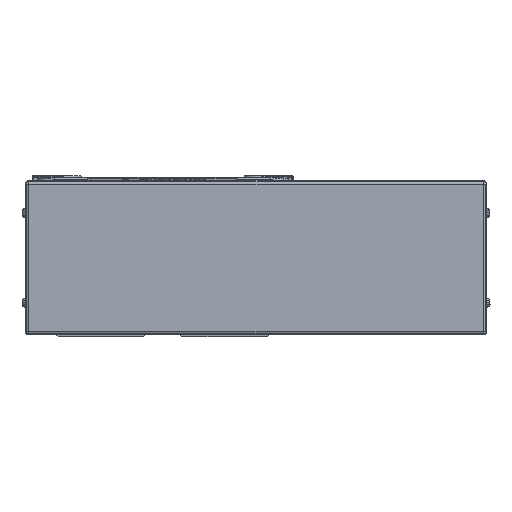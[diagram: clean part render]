
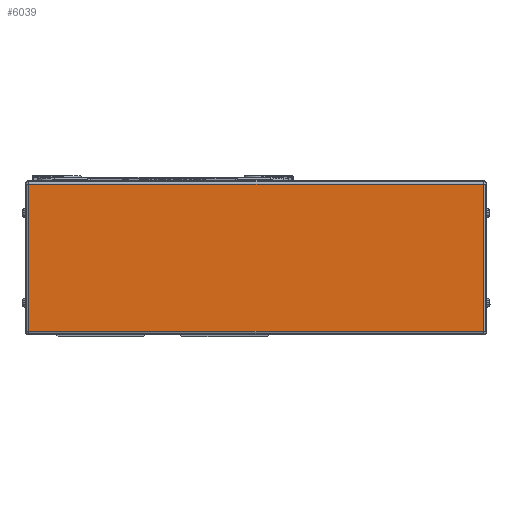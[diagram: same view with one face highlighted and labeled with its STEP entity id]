
A CAD part, left-side view. The second image highlights one B-rep face of the part: STEP entity #6039.
In plain terms, the highlighted planar face has unit normal (-1, 0, 0).
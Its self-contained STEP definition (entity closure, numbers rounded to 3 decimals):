
#6039=ADVANCED_FACE('',(#13007),#13008,.T.);
#13007=FACE_OUTER_BOUND('',#22163,.T.);
#13008=PLANE('',#22164);
#22163=EDGE_LOOP('',(#39217,#39218,#39219,#39220));
#22164=AXIS2_PLACEMENT_3D('',#39221,#39222,#39223);
#39217=ORIENTED_EDGE('',*,*,#53672,.F.);
#39218=ORIENTED_EDGE('',*,*,#55485,.F.);
#39219=ORIENTED_EDGE('',*,*,#51852,.F.);
#39220=ORIENTED_EDGE('',*,*,#52782,.F.);
#39221=CARTESIAN_POINT('',(-45.,-180.5,0.));
#39222=DIRECTION('',(-1.0,0.,0.));
#39223=DIRECTION('',(0.,0.,1.0));
#51852=EDGE_CURVE('',#60207,#63015,#63016,.T.);
#52782=EDGE_CURVE('',#64466,#60207,#64468,.T.);
#53672=EDGE_CURVE('',#65802,#64466,#65804,.T.);
#55485=EDGE_CURVE('',#63015,#65802,#68296,.T.);
#60207=VERTEX_POINT('',#74239);
#63015=VERTEX_POINT('',#78091);
#63016=LINE('',#78092,#78093);
#64466=VERTEX_POINT('',#80139);
#64468=LINE('',#80141,#80142);
#65802=VERTEX_POINT('',#81946);
#65804=LINE('',#81948,#81949);
#68296=LINE('',#85546,#85547);
#74239=CARTESIAN_POINT('',(-45.,74.5,-41.));
#78091=CARTESIAN_POINT('',(-45.,74.5,41.));
#78092=CARTESIAN_POINT('',(-45.,74.5,0.));
#78093=VECTOR('',#93167,10.0);
#80139=CARTESIAN_POINT('',(-45.,-178.5,-41.));
#80141=CARTESIAN_POINT('',(-45.,-180.5,-41.));
#80142=VECTOR('',#94354,10.0);
#81946=CARTESIAN_POINT('',(-45.,-178.5,41.));
#81948=CARTESIAN_POINT('',(-45.,-178.5,0.));
#81949=VECTOR('',#95603,10.0);
#85546=CARTESIAN_POINT('',(-45.,-180.5,41.));
#85547=VECTOR('',#97860,10.0);
#93167=DIRECTION('',(0.,0.,1.0));
#94354=DIRECTION('',(0.,1.0,0.));
#95603=DIRECTION('',(0.,0.,-1.0));
#97860=DIRECTION('',(0.,-1.0,0.));
